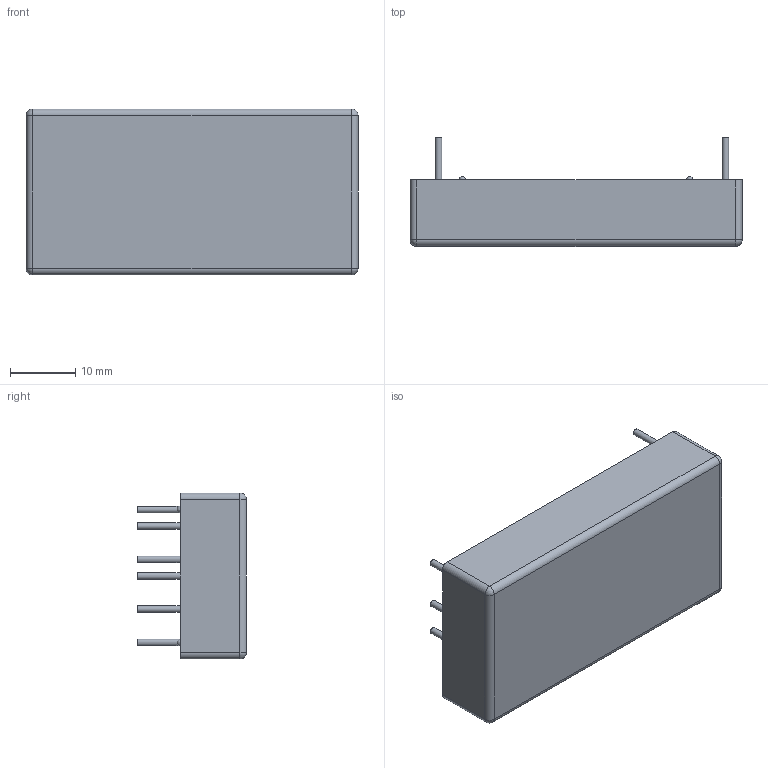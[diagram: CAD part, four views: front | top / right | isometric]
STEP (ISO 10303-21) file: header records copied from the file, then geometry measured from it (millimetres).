
FILE_DESCRIPTION(/* description */ ('Unknown'),/* implementation_level */ '2;1');
FILE_NAME(/* name */ 'RDC30(T)',/* time_stamp */ '2017-12-01T16:40:19+08:00',/* author */ ('Unknown'),/* organization */ ('Unknown'),/* preprocessor_version */ 'ST-DEVELOPER v16.7',/* originating_system */ 'DEX',/* authorisation */ $);
FILE_SCHEMA (('AUTOMOTIVE_DESIGN { 1 0 10303 214 3 1 1 }','AUTOMOTIVE_DESIGN {1 0 10303 214 3 1 1}'));
Length unit declared in the file: millimetre
Products named in the file (1): RDC30(T)
Bounding box: 50.8 x 16.66 x 25.4 mm (x, y, z)
Volume: 13105.7 mm3; surface area: 4190.8 mm2
Topology: 1 solids, 1 shells, 36 faces, 77 edges, 42 vertices
Faces by surface type: cylinder 15, plane 13, sphere 8
Full cylindrical faces by diameter (mm): 1 x7
Entity records: 850 total; most frequent: DIRECTION 162, CARTESIAN_POINT 129, ORIENTED_EDGE 108, AXIS2_PLACEMENT_3D 71, EDGE_CURVE 54, EDGE_LOOP 54, FACE_BOUND 54, VERTEX_POINT 38
